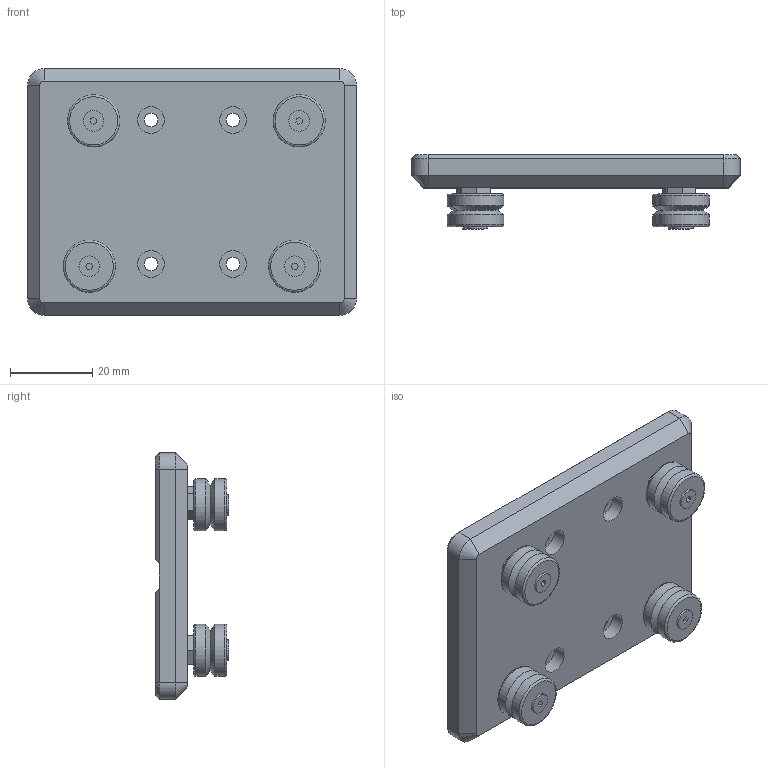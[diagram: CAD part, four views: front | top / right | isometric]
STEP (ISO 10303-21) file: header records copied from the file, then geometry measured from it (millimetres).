
FILE_DESCRIPTION(('STEP AP203'),'1');
FILE_NAME('//192.168.1.1/share/s-4 技術開発/s-4-4_CAD/s-4-4-3_見直し済み/RG 修正済み/RG_TOP/キャリッジプレート/RG-80(GS-25N).step','2022-03-28T02:00:42',(' '),(' '),'Spatial InterOp 3D',' ',' ');
FILE_SCHEMA(('CONFIG_CONTROL_DESIGN'));
Length unit declared in the file: millimetre
Products named in the file (13): 1; 2; 3; 4; 5; 6; 7; 8; 9; 10; 11; 12; 13
Bounding box: 80 x 18 x 60 mm (x, y, z)
Volume: 38000.6 mm3; surface area: 16552.1 mm2
Topology: 13 solids, 13 shells, 264 faces, 570 edges, 352 vertices
Faces by surface type: plane 136, cone 64, cylinder 52, torus 8, sphere 4
Full cylindrical faces by diameter (mm): 3.3 x8, 4 x12, 4.5 x4, 5 x4, 6.5 x4, 10 x4, 12.5 x4, 12.7 x8
Entity records: 7446 total; most frequent: CARTESIAN_POINT 1515, DIRECTION 1112, ORIENTED_EDGE 972, EDGE_CURVE 486, AXIS2_PLACEMENT_3D 445, EDGE_LOOP 384, VERTEX_POINT 336, FACE_OUTER_BOUND 320
